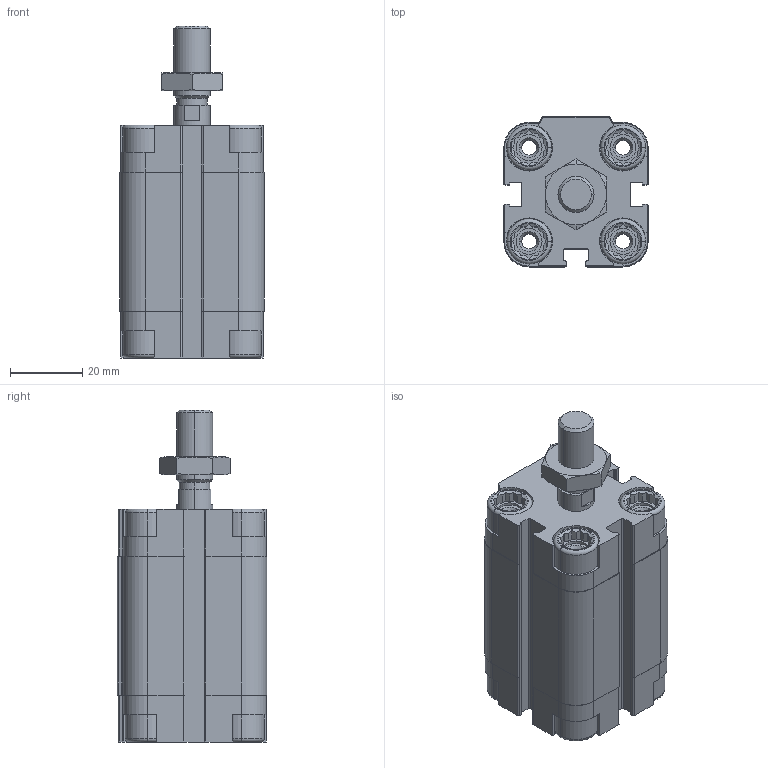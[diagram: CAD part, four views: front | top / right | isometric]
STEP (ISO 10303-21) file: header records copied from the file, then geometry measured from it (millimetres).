
FILE_DESCRIPTION (( 'STEP AP203' ), '1' );
FILE_NAME ('CDVU25-25.STEP', '2020-03-19T11:31:36', ( '' ), ( '' ), 'SwSTEP 2.0', 'SolidWorks 2019', '' );
FILE_SCHEMA (( 'CONFIG_CONTROL_DESIGN' ));
Length unit declared in the file: millimetre
Products named in the file (1): CDVU25-25
Bounding box: 40 x 41.5 x 92 mm (x, y, z)
Volume: 77775.7 mm3; surface area: 31399.8 mm2
Topology: 3 solids, 3 shells, 601 faces, 1578 edges, 1018 vertices
Faces by surface type: plane 359, cylinder 172, cone 54, torus 16
Entity records: 18929 total; most frequent: CARTESIAN_POINT 4054, ORIENTED_EDGE 3148, DIRECTION 3002, EDGE_CURVE 1574, AXIS2_PLACEMENT_3D 1030, VERTEX_POINT 1018, LINE 942, VECTOR 942
